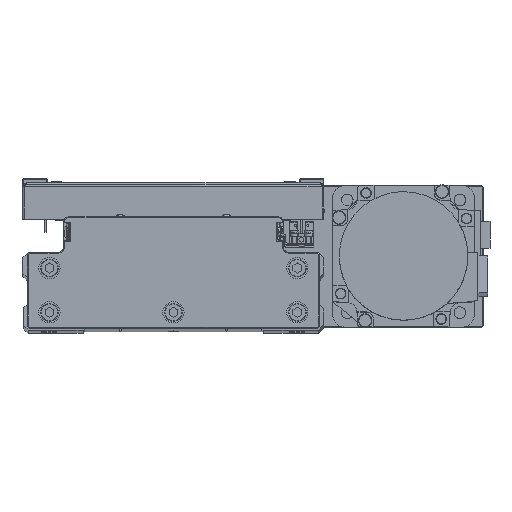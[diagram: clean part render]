
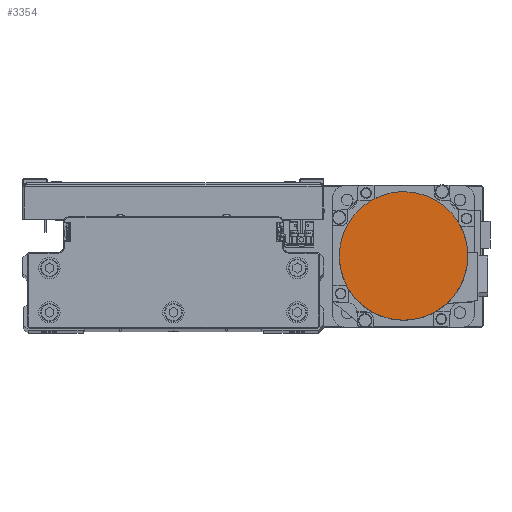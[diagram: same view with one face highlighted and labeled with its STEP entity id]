
A CAD part, top view. The second image highlights one B-rep face of the part: STEP entity #3354.
In plain terms, the highlighted planar face has unit normal (0, 0, 1) as drawn and (0, 0, -1) by its records, which use the part's own axes.
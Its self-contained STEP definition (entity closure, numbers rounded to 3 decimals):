
#1056 = B_SPLINE_CURVE_WITH_KNOTS ( 'NONE', 3,
 ( #19766, #33576, #2525, #16365, #30164, #43995, #12977, #26776, #40594, #9563, #23378, #37193, #6144, #19985, #33792, #2740, #16585, #30393 ),
 .UNSPECIFIED., .F., .F.,
 ( 4, 2, 2, 2, 2, 2, 2, 2, 4 ),
 ( 0., 0.125, 0.25, 0.375, 0.5, 0.625, 0.75, 0.875, 1. ),
 .UNSPECIFIED. ) ;
#1156 = AXIS2_PLACEMENT_3D ( 'NONE', #15247, #29043, #42857 ) ;
#1623 = CIRCLE ( 'NONE', #26981, 36.3 ) ;
#2273 = CARTESIAN_POINT ( 'NONE',  ( -16.086, -32.628, -122.2 ) ) ;
#2525 = CARTESIAN_POINT ( 'NONE',  ( -4.752, 36.066, -122.2 ) ) ;
#2740 = CARTESIAN_POINT ( 'NONE',  ( -36.066, 4.752, -122.2 ) ) ;
#3354 = ADVANCED_FACE ( 'NONE', ( #29622 ), #43441, .F. ) ;
#5659 = CARTESIAN_POINT ( 'NONE',  ( -23.988, -27.348, -122.2 ) ) ;
#6144 = CARTESIAN_POINT ( 'NONE',  ( -32.628, 16.086, -122.2 ) ) ;
#6352 = B_SPLINE_CURVE_WITH_KNOTS ( 'NONE', 3,
 ( #15897, #29696, #43517, #12500, #26304, #40128, #9084, #22891, #36705, #5659, #19508, #33321, #2273, #16119, #29920, #43743, #12724, #26529 ),
 .UNSPECIFIED., .F., .F.,
 ( 4, 2, 2, 2, 2, 2, 2, 2, 4 ),
 ( 0., 0.125, 0.25, 0.375, 0.5, 0.625, 0.75, 0.875, 1. ),
 .UNSPECIFIED. ) ;
#8848 = CARTESIAN_POINT ( 'NONE',  ( 0., -36.3, -122.2 ) ) ;
#9084 = CARTESIAN_POINT ( 'NONE',  ( -31.502, -18.192, -122.2 ) ) ;
#9563 = CARTESIAN_POINT ( 'NONE',  ( -27.348, 23.988, -122.2 ) ) ;
#11767 = DIRECTION ( 'NONE',  ( 0., 0., 1. ) ) ;
#12427 = CARTESIAN_POINT ( 'NONE',  ( 0., 0., -122.2 ) ) ;
#12500 = CARTESIAN_POINT ( 'NONE',  ( -35.139, -9.412, -122.2 ) ) ;
#12724 = CARTESIAN_POINT ( 'NONE',  ( -2.376, -36.3, -122.2 ) ) ;
#12977 = CARTESIAN_POINT ( 'NONE',  ( -18.192, 31.502, -122.2 ) ) ;
#13642 = VERTEX_POINT ( 'NONE', #18692 ) ;
#15247 = CARTESIAN_POINT ( 'NONE',  ( 0., 0., -122.2 ) ) ;
#15897 = CARTESIAN_POINT ( 'NONE',  ( -36.3, 0., -122.2 ) ) ;
#16119 = CARTESIAN_POINT ( 'NONE',  ( -11.696, -34.446, -122.2 ) ) ;
#16180 = ORIENTED_EDGE ( 'NONE', *, *, #39644, .F. ) ;
#16365 = CARTESIAN_POINT ( 'NONE',  ( -9.412, 35.139, -122.2 ) ) ;
#16585 = CARTESIAN_POINT ( 'NONE',  ( -36.3, 2.376, -122.2 ) ) ;
#18692 = CARTESIAN_POINT ( 'NONE',  ( 36.3, 0., -122.2 ) ) ;
#19508 = CARTESIAN_POINT ( 'NONE',  ( -22.143, -28.862, -122.2 ) ) ;
#19766 = CARTESIAN_POINT ( 'NONE',  ( 0., 36.3, -122.2 ) ) ;
#19881 = CARTESIAN_POINT ( 'NONE',  ( 0., 36.3, -122.2 ) ) ;
#19985 = CARTESIAN_POINT ( 'NONE',  ( -34.446, 11.696, -122.2 ) ) ;
#20114 = EDGE_CURVE ( 'NONE', #20475, #20118, #1056, .T. ) ;
#20118 = VERTEX_POINT ( 'NONE', #40820 ) ;
#20475 = VERTEX_POINT ( 'NONE', #19881 ) ;
#22891 = CARTESIAN_POINT ( 'NONE',  ( -28.862, -22.143, -122.2 ) ) ;
#23378 = CARTESIAN_POINT ( 'NONE',  ( -28.862, 22.143, -122.2 ) ) ;
#24694 = ORIENTED_EDGE ( 'NONE', *, *, #32647, .F. ) ;
#25564 = DIRECTION ( 'NONE',  ( -1., 0., 0. ) ) ;
#26225 = DIRECTION ( 'NONE',  ( 0., 0., 1. ) ) ;
#26304 = CARTESIAN_POINT ( 'NONE',  ( -34.446, -11.696, -122.2 ) ) ;
#26529 = CARTESIAN_POINT ( 'NONE',  ( 0., -36.3, -122.2 ) ) ;
#26776 = CARTESIAN_POINT ( 'NONE',  ( -22.143, 28.862, -122.2 ) ) ;
#26981 = AXIS2_PLACEMENT_3D ( 'NONE', #42776, #11767, #25564 ) ;
#27146 = VERTEX_POINT ( 'NONE', #8848 ) ;
#29043 = DIRECTION ( 'NONE',  ( 0., 0., 1. ) ) ;
#29622 = FACE_OUTER_BOUND ( 'NONE', #36547, .T. ) ;
#29696 = CARTESIAN_POINT ( 'NONE',  ( -36.3, -2.376, -122.2 ) ) ;
#29920 = CARTESIAN_POINT ( 'NONE',  ( -9.412, -35.139, -122.2 ) ) ;
#30164 = CARTESIAN_POINT ( 'NONE',  ( -11.696, 34.446, -122.2 ) ) ;
#30393 = CARTESIAN_POINT ( 'NONE',  ( -36.3, 0., -122.2 ) ) ;
#32579 = ORIENTED_EDGE ( 'NONE', *, *, #44583, .F. ) ;
#32647 = EDGE_CURVE ( 'NONE', #20118, #27146, #6352, .T. ) ;
#33321 = CARTESIAN_POINT ( 'NONE',  ( -18.192, -31.502, -122.2 ) ) ;
#33576 = CARTESIAN_POINT ( 'NONE',  ( -2.376, 36.3, -122.2 ) ) ;
#33792 = CARTESIAN_POINT ( 'NONE',  ( -35.139, 9.412, -122.2 ) ) ;
#36547 = EDGE_LOOP ( 'NONE', ( #32579, #24694, #41029, #16180 ) ) ;
#36705 = CARTESIAN_POINT ( 'NONE',  ( -27.348, -23.988, -122.2 ) ) ;
#37193 = CARTESIAN_POINT ( 'NONE',  ( -31.502, 18.192, -122.2 ) ) ;
#39008 = AXIS2_PLACEMENT_3D ( 'NONE', #12427, #26225, #40054 ) ;
#39644 = EDGE_CURVE ( 'NONE', #13642, #20475, #1623, .T. ) ;
#40054 = DIRECTION ( 'NONE',  ( 1., 0., 0. ) ) ;
#40128 = CARTESIAN_POINT ( 'NONE',  ( -32.628, -16.086, -122.2 ) ) ;
#40252 = CIRCLE ( 'NONE', #1156, 36.3 ) ;
#40594 = CARTESIAN_POINT ( 'NONE',  ( -23.988, 27.348, -122.2 ) ) ;
#40820 = CARTESIAN_POINT ( 'NONE',  ( -36.3, 0., -122.2 ) ) ;
#41029 = ORIENTED_EDGE ( 'NONE', *, *, #20114, .F. ) ;
#42776 = CARTESIAN_POINT ( 'NONE',  ( 0., 0., -122.2 ) ) ;
#42857 = DIRECTION ( 'NONE',  ( -1., 0., 0. ) ) ;
#43441 = PLANE ( 'NONE',  #39008 ) ;
#43517 = CARTESIAN_POINT ( 'NONE',  ( -36.066, -4.752, -122.2 ) ) ;
#43743 = CARTESIAN_POINT ( 'NONE',  ( -4.752, -36.066, -122.2 ) ) ;
#43995 = CARTESIAN_POINT ( 'NONE',  ( -16.086, 32.628, -122.2 ) ) ;
#44583 = EDGE_CURVE ( 'NONE', #27146, #13642, #40252, .T. ) ;
